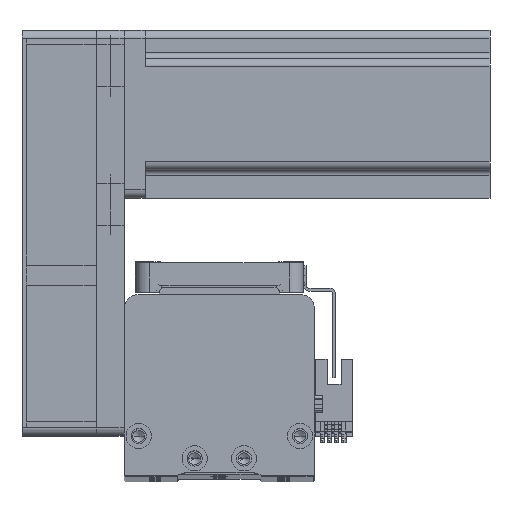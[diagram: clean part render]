
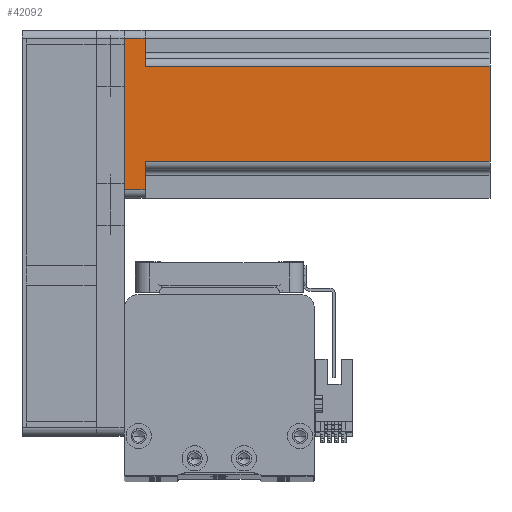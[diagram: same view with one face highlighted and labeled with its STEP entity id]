
A CAD part, top view. The second image highlights one B-rep face of the part: STEP entity #42092.
In plain terms, the highlighted planar face has unit normal (0, 0, 1) as drawn and (0, 1, 0) by its records, which use the part's own axes.
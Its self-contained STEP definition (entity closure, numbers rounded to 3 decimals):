
#1633 = VERTEX_POINT ( 'NONE', #10410 ) ;
#1676 = ORIENTED_EDGE ( 'NONE', *, *, #28145, .T. ) ;
#2713 = LINE ( 'NONE', #7610, #10330 ) ;
#2978 = ORIENTED_EDGE ( 'NONE', *, *, #24149, .T. ) ;
#3154 = CARTESIAN_POINT ( 'NONE',  ( -27., 30., 130.7 ) ) ;
#3192 = VERTEX_POINT ( 'NONE', #40204 ) ;
#5867 = ORIENTED_EDGE ( 'NONE', *, *, #34902, .T. ) ;
#5924 = ORIENTED_EDGE ( 'NONE', *, *, #34030, .F. ) ;
#6645 = VECTOR ( 'NONE', #10477, 1000. ) ;
#7113 = VECTOR ( 'NONE', #35522, 1000. ) ;
#7610 = CARTESIAN_POINT ( 'NONE',  ( 17., 30., 130.7 ) ) ;
#8537 = CARTESIAN_POINT ( 'NONE',  ( 27., 30., 7.5 ) ) ;
#9838 = LINE ( 'NONE', #3154, #48675 ) ;
#10330 = VECTOR ( 'NONE', #11375, 1000. ) ;
#10410 = CARTESIAN_POINT ( 'NONE',  ( -17., 30., 130.7 ) ) ;
#10477 = DIRECTION ( 'NONE',  ( 0., 0., -1. ) ) ;
#11375 = DIRECTION ( 'NONE',  ( 0., 0., -1. ) ) ;
#13149 = LINE ( 'NONE', #22539, #33136 ) ;
#14282 = CARTESIAN_POINT ( 'NONE',  ( 30., 30., 130.7 ) ) ;
#14464 = DIRECTION ( 'NONE',  ( 0., 0., 1. ) ) ;
#14686 = EDGE_LOOP ( 'NONE', ( #2978, #27217, #34781, #5867, #5924, #1676, #35508, #18150 ) ) ;
#15380 = EDGE_CURVE ( 'NONE', #32106, #38592, #44896, .T. ) ;
#18053 = DIRECTION ( 'NONE',  ( 1., 0., 0. ) ) ;
#18150 = ORIENTED_EDGE ( 'NONE', *, *, #22868, .T. ) ;
#18929 = DIRECTION ( 'NONE',  ( 1., 0., 0. ) ) ;
#20644 = CARTESIAN_POINT ( 'NONE',  ( 30., 30., 0. ) ) ;
#21317 = DIRECTION ( 'NONE',  ( 0., 0., 1. ) ) ;
#22539 = CARTESIAN_POINT ( 'NONE',  ( -20., 30., 7.5 ) ) ;
#22868 = EDGE_CURVE ( 'NONE', #38592, #38669, #9838, .T. ) ;
#24100 = CARTESIAN_POINT ( 'NONE',  ( 27., 30., 0. ) ) ;
#24149 = EDGE_CURVE ( 'NONE', #38669, #3192, #13149, .T. ) ;
#24172 = CARTESIAN_POINT ( 'NONE',  ( 30., 30., 130.7 ) ) ;
#25181 = VECTOR ( 'NONE', #35302, 1000. ) ;
#25228 = AXIS2_PLACEMENT_3D ( 'NONE', #14282, #40584, #18053 ) ;
#27217 = ORIENTED_EDGE ( 'NONE', *, *, #35769, .T. ) ;
#28145 = EDGE_CURVE ( 'NONE', #46725, #32106, #36638, .T. ) ;
#28285 = CARTESIAN_POINT ( 'NONE',  ( -27., 30., 7.5 ) ) ;
#30375 = FACE_OUTER_BOUND ( 'NONE', #14686, .T. ) ;
#31522 = CARTESIAN_POINT ( 'NONE',  ( 20., 30., 7.5 ) ) ;
#32106 = VERTEX_POINT ( 'NONE', #24100 ) ;
#32672 = VECTOR ( 'NONE', #21317, 1000. ) ;
#33136 = VECTOR ( 'NONE', #18929, 1000. ) ;
#33805 = VERTEX_POINT ( 'NONE', #37622 ) ;
#34008 = LINE ( 'NONE', #31522, #25181 ) ;
#34030 = EDGE_CURVE ( 'NONE', #46725, #33805, #34008, .T. ) ;
#34781 = ORIENTED_EDGE ( 'NONE', *, *, #43846, .F. ) ;
#34881 = VECTOR ( 'NONE', #46988, 1000. ) ;
#34902 = EDGE_CURVE ( 'NONE', #44891, #33805, #2713, .T. ) ;
#35056 = LINE ( 'NONE', #47680, #32672 ) ;
#35302 = DIRECTION ( 'NONE',  ( -1., 0., 0. ) ) ;
#35356 = CARTESIAN_POINT ( 'NONE',  ( -27., 30., 0. ) ) ;
#35508 = ORIENTED_EDGE ( 'NONE', *, *, #15380, .T. ) ;
#35522 = DIRECTION ( 'NONE',  ( -1., 0., 0. ) ) ;
#35769 = EDGE_CURVE ( 'NONE', #3192, #1633, #35056, .T. ) ;
#36638 = LINE ( 'NONE', #40533, #6645 ) ;
#36647 = PLANE ( 'NONE',  #25228 ) ;
#37622 = CARTESIAN_POINT ( 'NONE',  ( 17., 30., 7.5 ) ) ;
#38292 = LINE ( 'NONE', #24172, #7113 ) ;
#38592 = VERTEX_POINT ( 'NONE', #35356 ) ;
#38669 = VERTEX_POINT ( 'NONE', #28285 ) ;
#40204 = CARTESIAN_POINT ( 'NONE',  ( -17., 30., 7.5 ) ) ;
#40533 = CARTESIAN_POINT ( 'NONE',  ( 27., 30., 130.7 ) ) ;
#40584 = DIRECTION ( 'NONE',  ( 0., -1., 0. ) ) ;
#42092 = ADVANCED_FACE ( 'NONE', ( #30375 ), #36647, .F. ) ;
#43846 = EDGE_CURVE ( 'NONE', #44891, #1633, #38292, .T. ) ;
#44891 = VERTEX_POINT ( 'NONE', #45967 ) ;
#44896 = LINE ( 'NONE', #20644, #34881 ) ;
#45967 = CARTESIAN_POINT ( 'NONE',  ( 17., 30., 130.7 ) ) ;
#46725 = VERTEX_POINT ( 'NONE', #8537 ) ;
#46988 = DIRECTION ( 'NONE',  ( -1., 0., 0. ) ) ;
#47680 = CARTESIAN_POINT ( 'NONE',  ( -17., 30., 130.7 ) ) ;
#48675 = VECTOR ( 'NONE', #14464, 1000. ) ;
